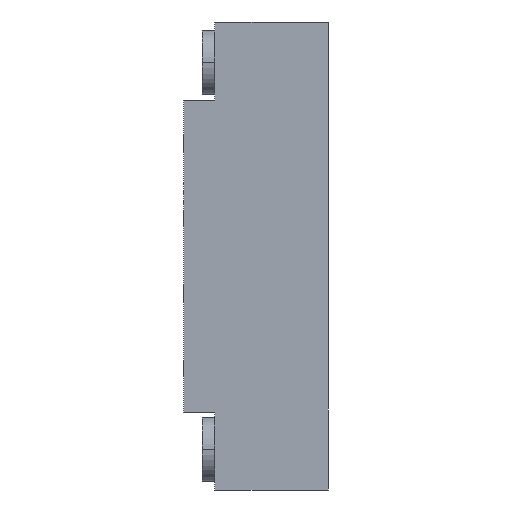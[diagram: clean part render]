
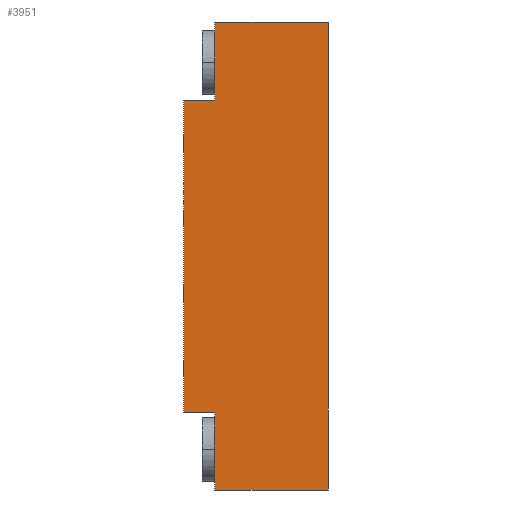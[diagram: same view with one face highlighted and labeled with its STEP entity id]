
A CAD part, left-side view. The second image highlights one B-rep face of the part: STEP entity #3951.
In plain terms, the highlighted planar face has unit normal (-1, 0, 0).
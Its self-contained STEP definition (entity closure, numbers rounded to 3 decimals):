
#2=DIRECTION('',(0.,1.,0.));
#3=VECTOR('',#2,18.2);
#4=CARTESIAN_POINT('',(-51.75,0.,-37.5));
#5=LINE('',#4,#3);
#6=DIRECTION('',(0.,0.,1.));
#7=VECTOR('',#6,12.5);
#8=CARTESIAN_POINT('',(-51.75,18.2,-37.5));
#9=LINE('',#8,#7);
#10=DIRECTION('',(0.,1.,0.));
#11=VECTOR('',#10,5.);
#12=CARTESIAN_POINT('',(-51.75,18.2,-25.));
#13=LINE('',#12,#11);
#14=DIRECTION('',(0.,0.,1.));
#15=VECTOR('',#14,50.);
#16=CARTESIAN_POINT('',(-51.75,23.2,-25.));
#17=LINE('',#16,#15);
#18=DIRECTION('',(0.,-1.,0.));
#19=VECTOR('',#18,5.);
#20=CARTESIAN_POINT('',(-51.75,23.2,25.));
#21=LINE('',#20,#19);
#22=DIRECTION('',(0.,0.,1.));
#23=VECTOR('',#22,12.5);
#24=CARTESIAN_POINT('',(-51.75,18.2,25.));
#25=LINE('',#24,#23);
#26=DIRECTION('',(0.,-1.,0.));
#27=VECTOR('',#26,18.2);
#28=CARTESIAN_POINT('',(-51.75,18.2,37.5));
#29=LINE('',#28,#27);
#30=DIRECTION('',(0.,0.,-1.));
#31=VECTOR('',#30,75.);
#32=CARTESIAN_POINT('',(-51.75,0.,37.5));
#33=LINE('',#32,#31);
#3022=CARTESIAN_POINT('',(-51.75,0.,-37.5));
#3023=CARTESIAN_POINT('',(-51.75,18.2,-37.5));
#3024=VERTEX_POINT('',#3022);
#3025=VERTEX_POINT('',#3023);
#3026=CARTESIAN_POINT('',(-51.75,18.2,-25.));
#3027=VERTEX_POINT('',#3026);
#3028=CARTESIAN_POINT('',(-51.75,23.2,-25.));
#3029=VERTEX_POINT('',#3028);
#3030=CARTESIAN_POINT('',(-51.75,23.2,25.));
#3031=VERTEX_POINT('',#3030);
#3032=CARTESIAN_POINT('',(-51.75,18.2,25.));
#3033=VERTEX_POINT('',#3032);
#3034=CARTESIAN_POINT('',(-51.75,18.2,37.5));
#3035=VERTEX_POINT('',#3034);
#3036=CARTESIAN_POINT('',(-51.75,0.,37.5));
#3037=VERTEX_POINT('',#3036);
#3928=CARTESIAN_POINT('',(-51.75,0.,0.));
#3929=DIRECTION('',(1.,0.,0.));
#3930=DIRECTION('',(0.,0.,-1.));
#3931=AXIS2_PLACEMENT_3D('',#3928,#3929,#3930);
#3932=PLANE('',#3931);
#3934=ORIENTED_EDGE('',*,*,#3933,.T.);
#3936=ORIENTED_EDGE('',*,*,#3935,.T.);
#3938=ORIENTED_EDGE('',*,*,#3937,.T.);
#3940=ORIENTED_EDGE('',*,*,#3939,.T.);
#3942=ORIENTED_EDGE('',*,*,#3941,.T.);
#3944=ORIENTED_EDGE('',*,*,#3943,.T.);
#3946=ORIENTED_EDGE('',*,*,#3945,.T.);
#3948=ORIENTED_EDGE('',*,*,#3947,.T.);
#3949=EDGE_LOOP('',(#3934,#3936,#3938,#3940,#3942,#3944,#3946,#3948));
#3950=FACE_OUTER_BOUND('',#3949,.F.);
#3951=ADVANCED_FACE('',(#3950),#3932,.F.);
#3933=EDGE_CURVE('',#3024,#3025,#5,.T.);
#3935=EDGE_CURVE('',#3025,#3027,#9,.T.);
#3937=EDGE_CURVE('',#3027,#3029,#13,.T.);
#3939=EDGE_CURVE('',#3029,#3031,#17,.T.);
#3941=EDGE_CURVE('',#3031,#3033,#21,.T.);
#3943=EDGE_CURVE('',#3033,#3035,#25,.T.);
#3945=EDGE_CURVE('',#3035,#3037,#29,.T.);
#3947=EDGE_CURVE('',#3037,#3024,#33,.T.);
